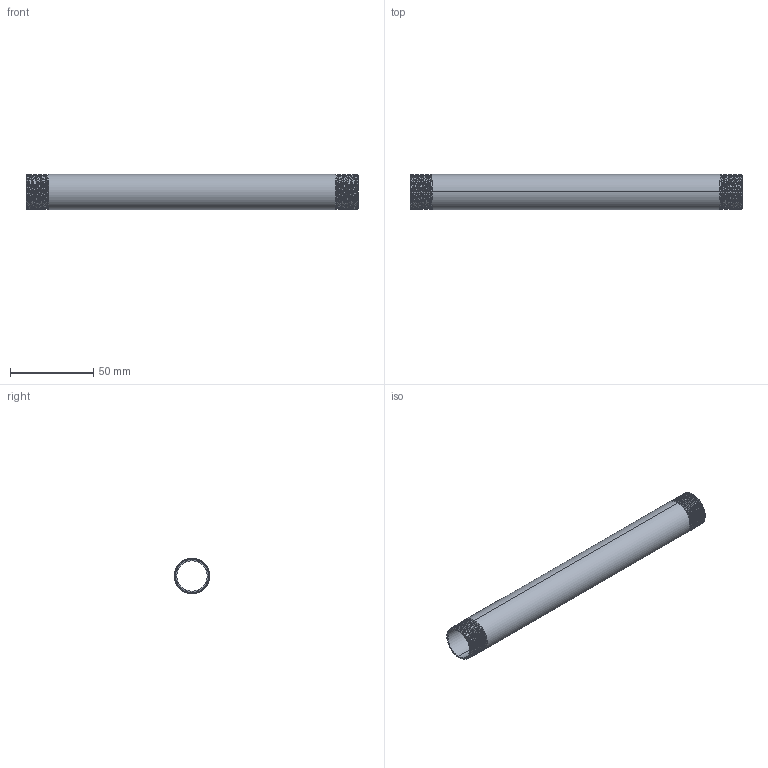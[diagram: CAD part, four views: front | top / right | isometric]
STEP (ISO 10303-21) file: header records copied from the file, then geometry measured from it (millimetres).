
FILE_DESCRIPTION (( 'STEP AP203' ), '1' );
FILE_NAME ('3D_R210_1-2x200_17185630.STEP', '2024-08-16T10:55:29', ( '' ), ( '' ), 'SwSTEP 2.0', 'SolidWorks 2024', '' );
FILE_SCHEMA (( 'CONFIG_CONTROL_DESIGN' ));
Length unit declared in the file: millimetre
Products named in the file (1): 3D_R210_1-2x200_17185630
Bounding box: 200 x 21.3 x 21.3 mm (x, y, z)
Volume: 18056.6 mm3; surface area: 25845.3 mm2
Topology: 1 solids, 1 shells, 72 faces, 202 edges, 132 vertices
Faces by surface type: cone 58, bspline 6, cylinder 4, plane 4
Entity records: 11263 total; most frequent: CARTESIAN_POINT 9585, ORIENTED_EDGE 404, DIRECTION 230, EDGE_CURVE 202, VERTEX_POINT 132, B_SPLINE_CURVE_WITH_KNOTS 112, AXIS2_PLACEMENT_3D 81, EDGE_LOOP 74
